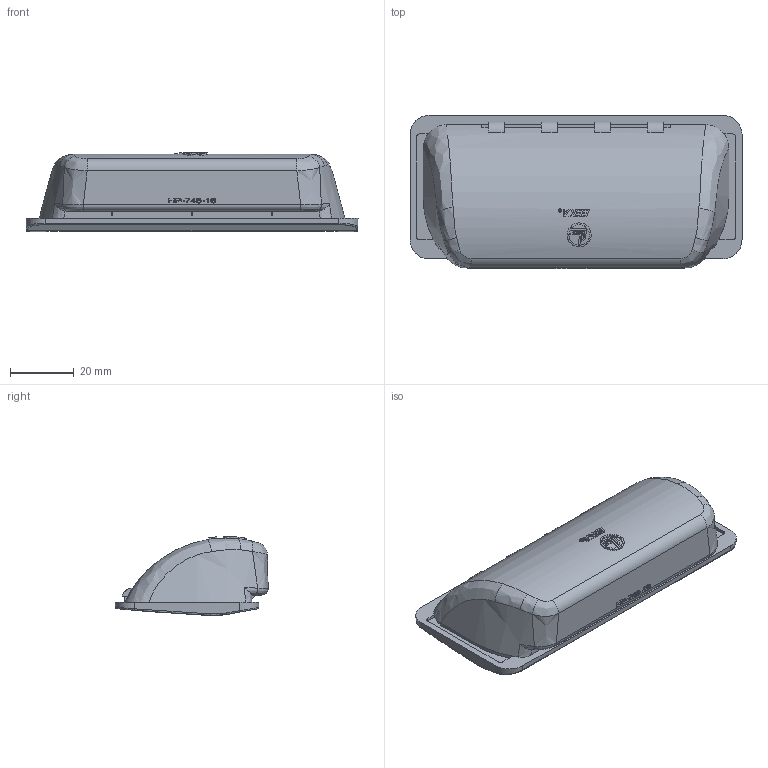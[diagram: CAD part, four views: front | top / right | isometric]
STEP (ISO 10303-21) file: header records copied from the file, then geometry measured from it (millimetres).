
FILE_DESCRIPTION (( 'STEP AP203' ), '1' );
FILE_NAME ('HP-746-16.STEP', '2015-11-23T06:47:28', ( '' ), ( '' ), 'SwSTEP 2.0', 'SolidWorks 2014', '' );
FILE_SCHEMA (( 'CONFIG_CONTROL_DESIGN' ));
Length unit declared in the file: millimetre
Products named in the file (1): HP-746-16
Bounding box: 104 x 48.05 x 24.77 mm (x, y, z)
Volume: 19444.9 mm3; surface area: 19192 mm2
Topology: 1 solids, 1 shells, 412 faces, 1095 edges, 704 vertices
Faces by surface type: plane 191, bspline 120, cylinder 101
Entity records: 18190 total; most frequent: CARTESIAN_POINT 9355, ORIENTED_EDGE 2182, DIRECTION 1210, EDGE_CURVE 1091, VERTEX_POINT 704, B_SPLINE_CURVE_WITH_KNOTS 514, LINE 504, VECTOR 504
